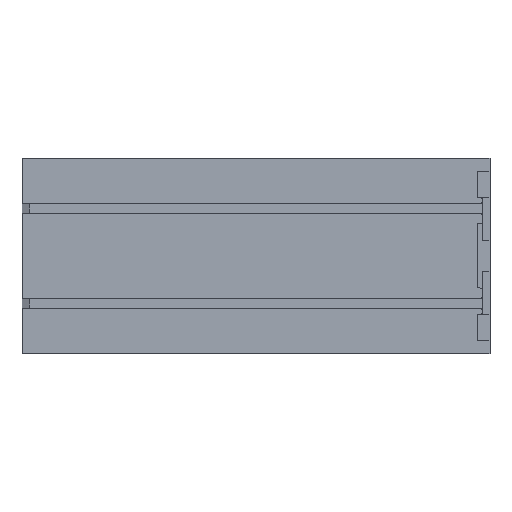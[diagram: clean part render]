
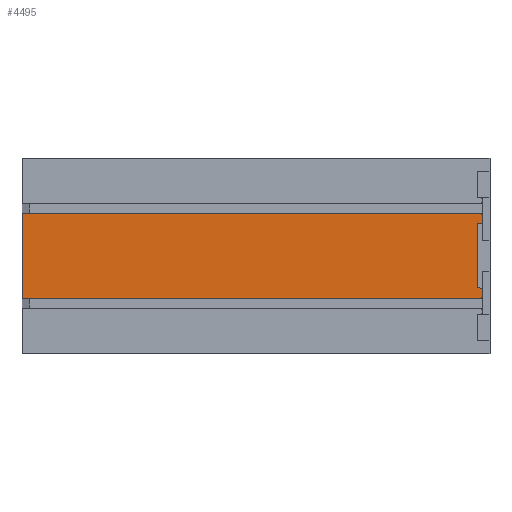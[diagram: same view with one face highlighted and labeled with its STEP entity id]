
A CAD part, top view. The second image highlights one B-rep face of the part: STEP entity #4495.
In plain terms, the highlighted planar face has unit normal (0, 0, 1).
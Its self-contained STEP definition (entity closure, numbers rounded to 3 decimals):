
#111 = CIRCLE ( 'NONE', #3475, 1. ) ;
#206 = EDGE_LOOP ( 'NONE', ( #4581, #1873, #1601, #1422, #4226, #5182, #1625, #1638, #2430, #1931, #2613, #2767 ) ) ;
#221 = DIRECTION ( 'NONE',  ( -1., 0., 0. ) ) ;
#303 = DIRECTION ( 'NONE',  ( 0., 0., 1. ) ) ;
#444 = VERTEX_POINT ( 'NONE', #1327 ) ;
#478 = AXIS2_PLACEMENT_3D ( 'NONE', #1924, #2854, #3261 ) ;
#536 = VECTOR ( 'NONE', #2810, 1000. ) ;
#606 = VERTEX_POINT ( 'NONE', #4319 ) ;
#654 = AXIS2_PLACEMENT_3D ( 'NONE', #3799, #303, #4241 ) ;
#791 = LINE ( 'NONE', #3952, #5529 ) ;
#848 = VECTOR ( 'NONE', #2114, 1000. ) ;
#926 = FACE_OUTER_BOUND ( 'NONE', #206, .T. ) ;
#1030 = CARTESIAN_POINT ( 'NONE',  ( -47.243, -22.663, 10.4 ) ) ;
#1044 = LINE ( 'NONE', #1373, #4928 ) ;
#1084 = EDGE_CURVE ( 'NONE', #4170, #4955, #1670, .T. ) ;
#1104 = VERTEX_POINT ( 'NONE', #1517 ) ;
#1174 = DIRECTION ( 'NONE',  ( 1., 0., 0. ) ) ;
#1304 = CARTESIAN_POINT ( 'NONE',  ( -47.243, -22.663, 10.4 ) ) ;
#1327 = CARTESIAN_POINT ( 'NONE',  ( -45.243, -23.663, 10.4 ) ) ;
#1373 = CARTESIAN_POINT ( 'NONE',  ( -219.343, -26.663, 10.4 ) ) ;
#1392 = EDGE_CURVE ( 'NONE', #3887, #2017, #791, .T. ) ;
#1422 = ORIENTED_EDGE ( 'NONE', *, *, #2142, .T. ) ;
#1447 = EDGE_CURVE ( 'NONE', #1613, #606, #111, .T. ) ;
#1453 = EDGE_CURVE ( 'NONE', #1613, #1854, #1044, .T. ) ;
#1454 = AXIS2_PLACEMENT_3D ( 'NONE', #5393, #4108, #221 ) ;
#1517 = CARTESIAN_POINT ( 'NONE',  ( -47.243, 1.537, 10.4 ) ) ;
#1601 = ORIENTED_EDGE ( 'NONE', *, *, #5270, .F. ) ;
#1613 = VERTEX_POINT ( 'NONE', #3736 ) ;
#1625 = ORIENTED_EDGE ( 'NONE', *, *, #2024, .T. ) ;
#1638 = ORIENTED_EDGE ( 'NONE', *, *, #5584, .T. ) ;
#1652 = DIRECTION ( 'NONE',  ( 0., 1., 0. ) ) ;
#1670 = LINE ( 'NONE', #1030, #536 ) ;
#1829 = VERTEX_POINT ( 'NONE', #3567 ) ;
#1854 = VERTEX_POINT ( 'NONE', #3169 ) ;
#1873 = ORIENTED_EDGE ( 'NONE', *, *, #5589, .T. ) ;
#1924 = CARTESIAN_POINT ( 'NONE',  ( -46.243, 4.537, 10.4 ) ) ;
#1931 = ORIENTED_EDGE ( 'NONE', *, *, #3067, .F. ) ;
#2017 = VERTEX_POINT ( 'NONE', #4150 ) ;
#2024 = EDGE_CURVE ( 'NONE', #606, #444, #4844, .T. ) ;
#2114 = DIRECTION ( 'NONE',  ( 1., 0., 0. ) ) ;
#2138 = VECTOR ( 'NONE', #1174, 1000. ) ;
#2142 = EDGE_CURVE ( 'NONE', #2622, #1854, #3755, .T. ) ;
#2171 = CARTESIAN_POINT ( 'NONE',  ( -47.243, -42.663, 10.4 ) ) ;
#2190 = CIRCLE ( 'NONE', #478, 1. ) ;
#2278 = AXIS2_PLACEMENT_3D ( 'NONE', #2295, #5456, #4180 ) ;
#2295 = CARTESIAN_POINT ( 'NONE',  ( -46.243, -23.663, 10.4 ) ) ;
#2430 = ORIENTED_EDGE ( 'NONE', *, *, #1084, .T. ) ;
#2613 = ORIENTED_EDGE ( 'NONE', *, *, #4660, .T. ) ;
#2616 = DIRECTION ( 'NONE',  ( 0., -1., 0. ) ) ;
#2617 = VECTOR ( 'NONE', #3539, 1000. ) ;
#2622 = VERTEX_POINT ( 'NONE', #4829 ) ;
#2767 = ORIENTED_EDGE ( 'NONE', *, *, #5228, .T. ) ;
#2804 = PLANE ( 'NONE',  #1454 ) ;
#2810 = DIRECTION ( 'NONE',  ( -1., 0., 0. ) ) ;
#2854 = DIRECTION ( 'NONE',  ( 0., 0., 1. ) ) ;
#3037 = VERTEX_POINT ( 'NONE', #4759 ) ;
#3067 = EDGE_CURVE ( 'NONE', #1104, #4955, #4751, .T. ) ;
#3094 = LINE ( 'NONE', #5593, #848 ) ;
#3141 = DIRECTION ( 'NONE',  ( 0., 1., 0. ) ) ;
#3169 = CARTESIAN_POINT ( 'NONE',  ( -219.343, -26.663, 10.4 ) ) ;
#3261 = DIRECTION ( 'NONE',  ( -1., 0., 0. ) ) ;
#3475 = AXIS2_PLACEMENT_3D ( 'NONE', #4419, #5382, #3667 ) ;
#3539 = DIRECTION ( 'NONE',  ( 0., -1., 0. ) ) ;
#3567 = CARTESIAN_POINT ( 'NONE',  ( -46.243, 5.537, 10.4 ) ) ;
#3583 = DIRECTION ( 'NONE',  ( -1., 0., 0. ) ) ;
#3667 = DIRECTION ( 'NONE',  ( -1., 0., 0. ) ) ;
#3698 = CARTESIAN_POINT ( 'NONE',  ( -45.243, -26.663, 10.4 ) ) ;
#3736 = CARTESIAN_POINT ( 'NONE',  ( -46.243, -26.663, 10.4 ) ) ;
#3755 = LINE ( 'NONE', #4012, #2617 ) ;
#3799 = CARTESIAN_POINT ( 'NONE',  ( -46.243, 2.537, 10.4 ) ) ;
#3887 = VERTEX_POINT ( 'NONE', #3962 ) ;
#3952 = CARTESIAN_POINT ( 'NONE',  ( -45.243, 5.537, 10.4 ) ) ;
#3962 = CARTESIAN_POINT ( 'NONE',  ( -45.243, 2.537, 10.4 ) ) ;
#4012 = CARTESIAN_POINT ( 'NONE',  ( -219.343, -47.663, 10.4 ) ) ;
#4108 = DIRECTION ( 'NONE',  ( 0., 0., -1. ) ) ;
#4150 = CARTESIAN_POINT ( 'NONE',  ( -45.243, 4.537, 10.4 ) ) ;
#4170 = VERTEX_POINT ( 'NONE', #5534 ) ;
#4171 = CARTESIAN_POINT ( 'NONE',  ( -47.243, 1.537, 10.4 ) ) ;
#4180 = DIRECTION ( 'NONE',  ( -1., 0., 0. ) ) ;
#4226 = ORIENTED_EDGE ( 'NONE', *, *, #1453, .F. ) ;
#4241 = DIRECTION ( 'NONE',  ( -1., 0., 0. ) ) ;
#4319 = CARTESIAN_POINT ( 'NONE',  ( -45.243, -25.663, 10.4 ) ) ;
#4419 = CARTESIAN_POINT ( 'NONE',  ( -46.243, -25.663, 10.4 ) ) ;
#4441 = CIRCLE ( 'NONE', #654, 1. ) ;
#4494 = CIRCLE ( 'NONE', #2278, 1. ) ;
#4495 = ADVANCED_FACE ( 'NONE', ( #926 ), #2804, .F. ) ;
#4570 = VECTOR ( 'NONE', #1652, 1000. ) ;
#4581 = ORIENTED_EDGE ( 'NONE', *, *, #1392, .T. ) ;
#4660 = EDGE_CURVE ( 'NONE', #1104, #3037, #4866, .T. ) ;
#4751 = LINE ( 'NONE', #2171, #4821 ) ;
#4759 = CARTESIAN_POINT ( 'NONE',  ( -46.243, 1.537, 10.4 ) ) ;
#4821 = VECTOR ( 'NONE', #2616, 1000. ) ;
#4829 = CARTESIAN_POINT ( 'NONE',  ( -219.343, 5.537, 10.4 ) ) ;
#4844 = LINE ( 'NONE', #3698, #4570 ) ;
#4866 = LINE ( 'NONE', #4171, #2138 ) ;
#4928 = VECTOR ( 'NONE', #3583, 1000. ) ;
#4955 = VERTEX_POINT ( 'NONE', #1304 ) ;
#5182 = ORIENTED_EDGE ( 'NONE', *, *, #1447, .T. ) ;
#5228 = EDGE_CURVE ( 'NONE', #3037, #3887, #4441, .T. ) ;
#5270 = EDGE_CURVE ( 'NONE', #2622, #1829, #3094, .T. ) ;
#5382 = DIRECTION ( 'NONE',  ( 0., 0., 1. ) ) ;
#5393 = CARTESIAN_POINT ( 'NONE',  ( 0., 0., 10.4 ) ) ;
#5456 = DIRECTION ( 'NONE',  ( 0., 0., 1. ) ) ;
#5529 = VECTOR ( 'NONE', #3141, 1000. ) ;
#5534 = CARTESIAN_POINT ( 'NONE',  ( -46.243, -22.663, 10.4 ) ) ;
#5584 = EDGE_CURVE ( 'NONE', #444, #4170, #4494, .T. ) ;
#5589 = EDGE_CURVE ( 'NONE', #2017, #1829, #2190, .T. ) ;
#5593 = CARTESIAN_POINT ( 'NONE',  ( -219.343, 5.537, 10.4 ) ) ;
